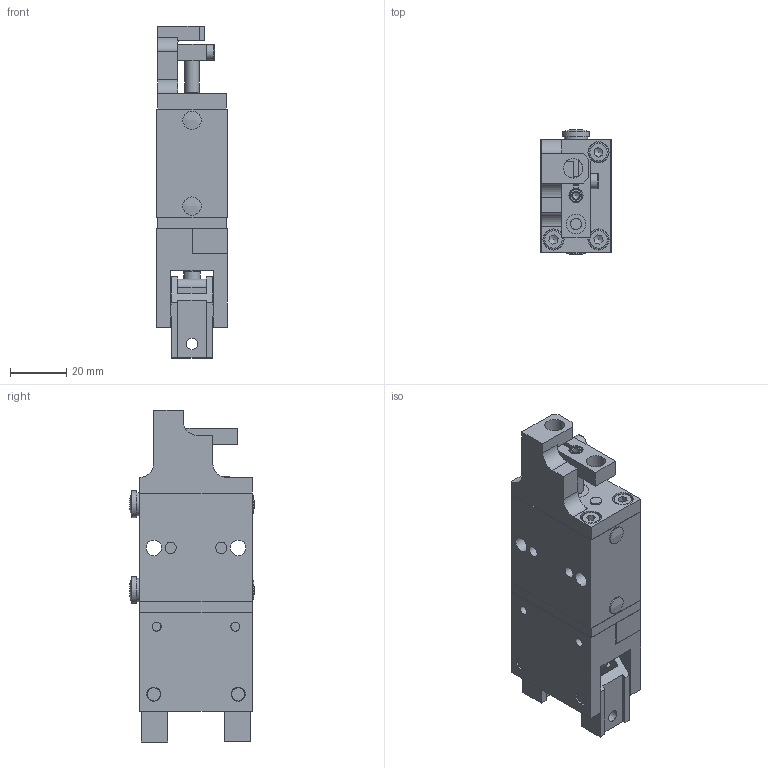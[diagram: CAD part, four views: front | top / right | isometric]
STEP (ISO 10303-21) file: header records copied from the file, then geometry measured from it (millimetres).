
FILE_DESCRIPTION(/* description */ (''),/* implementation_level */ '2;1');
FILE_NAME(/* name */ 'C:\Step_import\elemente\3000012_1.stp',/* time_stamp */ '2024-03-18T13:39:07+01:00',/* author */ ('ul'),/* organization */ (''),/* preprocessor_version */ 'ST-DEVELOPER v17',/* originating_system */ 'Autodesk Inventor 2018',/* authorisation */ '');
FILE_SCHEMA (('AUTOMOTIVE_DESIGN { 1 0 10303 214 3 1 1 }'));
Length unit declared in the file: millimetre
Products named in the file (1): 3000012
Bounding box: 25 x 44.35 x 118 mm (x, y, z)
Volume: 75206.4 mm3; surface area: 50110.4 mm2
Topology: 43 solids, 43 shells, 628 faces, 1654 edges, 1143 vertices
Faces by surface type: plane 331, cylinder 179, cone 84, torus 28, sphere 4, bspline 2
Full cylindrical faces by diameter (mm): 1.2 x4, 2.459 x5, 3 x5, 3.242 x10, 3.5 x4, 4 x19, 4.1 x2, 4.134 x6, 4.3 x4, 4.4 x2, 4.5 x5, 5 x19, 5.2 x1, 5.4 x2, 5.5 x3, 6 x1, 6.5 x2, 6.917 x2, 7 x6, 7.2 x2, 7.5 x3, 8 x5, 8.3 x6, 9 x5, 9.5 x2, 14 x1, 14.9 x1, 15 x3, 17.5 x2, 20 x5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
Entity records: 22165 total; most frequent: CARTESIAN_POINT 5208, DIRECTION 3510, ORIENTED_EDGE 3262, EDGE_CURVE 1631, AXIS2_PLACEMENT_3D 1357, VERTEX_POINT 1143, LINE 796, VECTOR 796
